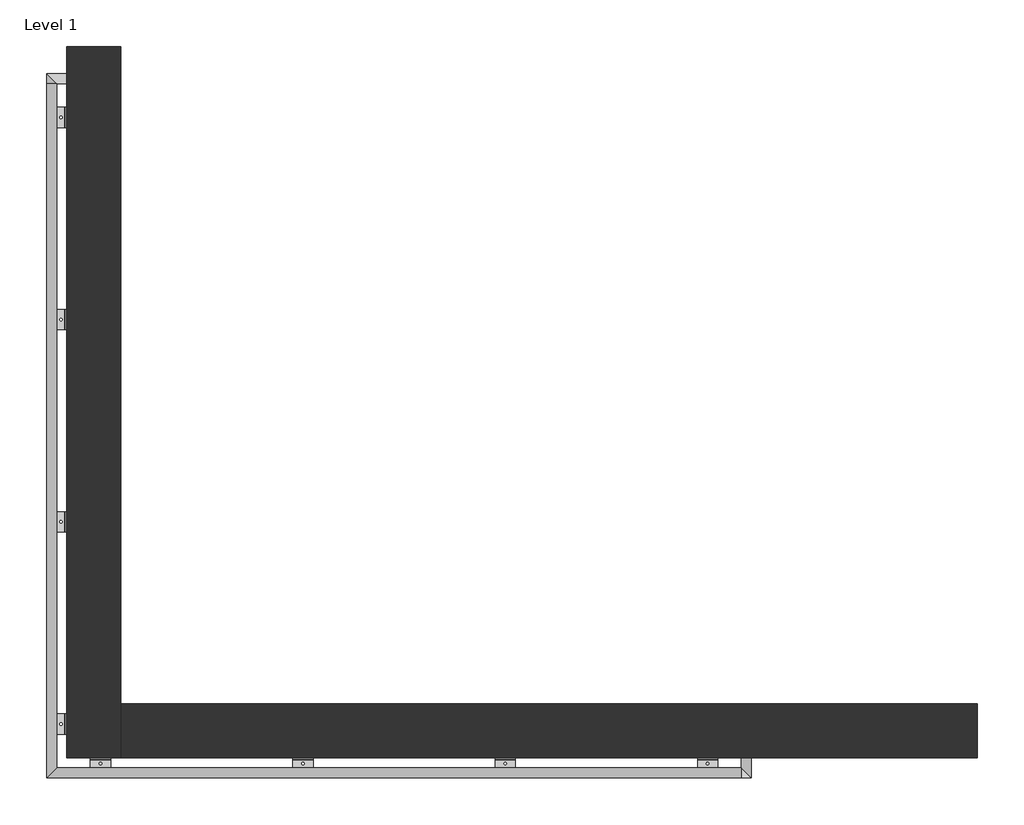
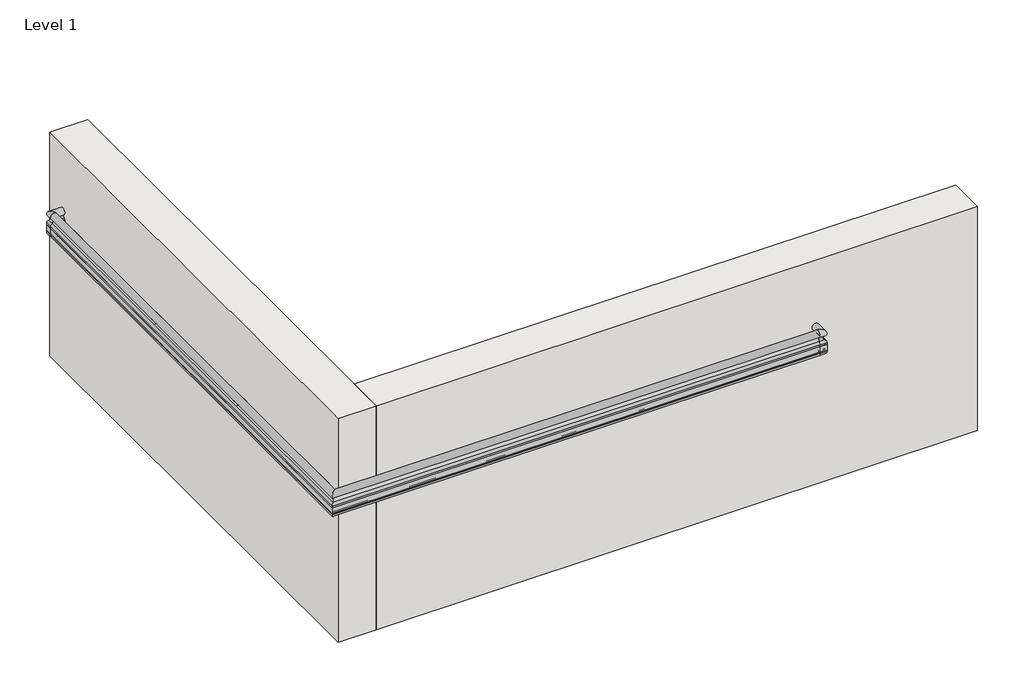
# One storey: 2 walls, 1 railing.
"""IFC4 building model written with IfcOpenShell, lengths in millimetres."""

from ifc_helpers import new_model, si_unit, origin, origin_with_axes, place, context, project, spatial, polyline, outline, extrude, faceted_brep, transform, mapped, element, save
from components import railing_651f2b22, railing_993f5558, railing_b5e296fa

model = new_model("IFC4")

# Units and contexts
model_context = context("Model", 3, world=origin())
ifc_project = project(units=[si_unit("LENGTHUNIT", "METRE", prefix="MILLI")], contexts=[model_context])

# Site, building, storey
site = spatial("IfcSite", under=ifc_project)
building = spatial("IfcBuilding", under=site)
storey = spatial("IfcBuildingStorey", under=building, Name="Level 1", Elevation=0.0)

# Railing
placement = place(None, origin())
railing_shape = railing_651f2b22(model_context)
railing_2_shape = railing_993f5558(model_context)
railing_3_shape = railing_b5e296fa(model_context)
element("IfcRailing", 1, ObjectType="Handrail-InPro-HR12-C-Prism-Metal_Bracket-Wood", at=placement, inside=storey, context=model_context, shape_type="MappedRepresentation", body=[
    mapped(railing_shape, transform((0.0, 0.0, 0.0), x_axis=(1.0, 0.0, 0.0), y_axis=(0.0, 1.0, 0.0), z_axis=(0.0, 0.0, 1.0))),
    mapped(railing_2_shape, transform((0.0, 0.0, 0.0), x_axis=(1.0, 0.0, 0.0), y_axis=(0.0, 1.0, 0.0), z_axis=(0.0, 0.0, 1.0))),
    mapped(railing_3_shape, transform((0.0, 0.0, 0.0), x_axis=(1.0, 0.0, 0.0), y_axis=(0.0, 1.0, 0.0), z_axis=(0.0, 0.0, 1.0))),
])

# Walls
element("IfcWall", 2, ObjectType="Wall 1", at=placement, inside=storey, context=model_context, shape_type="Brep", body=[
    faceted_brep([(-5330.1382624, 4474.2443008, 0.0), (-5330.1382624, 1794.5443008, 0.0), (-5330.1382624, 1794.5443008, 1270.0), (-5330.1382624, 4474.2443008, 1270.0), (-5126.9382624, 4474.2443008, 0.0), (-5126.9382624, 4474.2443008, 1270.0), (-5126.9382624, 1997.7443008, 1270.0), (-5126.9382624, 1794.5443008, 1270.0), (-5126.9382624, 1794.5443008, 0.0), (-5126.9382624, 1997.7443008, 0.0)], [[[0, 1, 2, 3]], [[4, 5, 6, 7, 8, 9]], [[1, 0, 4, 9, 8]], [[3, 2, 7, 6, 5]], [[0, 3, 5, 4]], [[2, 1, 8, 7]]]),
])
element("IfcWall", 3, ObjectType="Wall 1", at=placement, inside=storey, context=model_context, shape_type="SweptSolid", body=[
    extrude(outline(polyline([(-5126.9382624, 1997.7443008), (-1901.1382624, 1997.7443008), (-1901.1382624, 1794.5443008), (-5126.9382624, 1794.5443008), (-5126.9382624, 1997.7443008)])), origin_with_axes(), (0.0, 0.0, 1.0), 1270.0),
])

save(model, "model.ifc")
